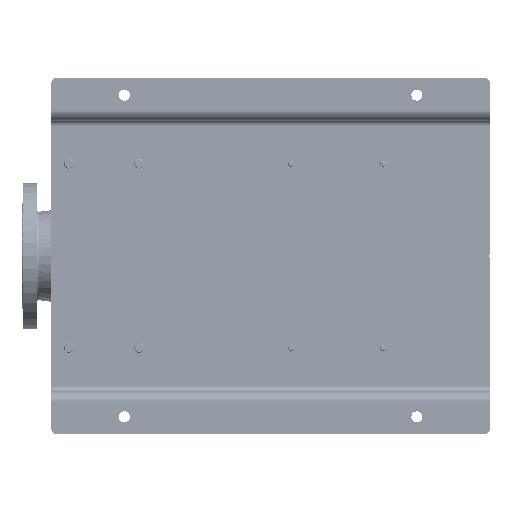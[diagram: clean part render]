
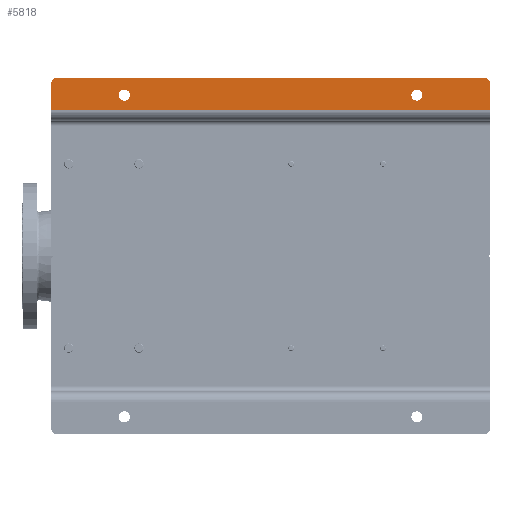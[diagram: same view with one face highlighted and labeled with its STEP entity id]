
A CAD part, front view. The second image highlights one B-rep face of the part: STEP entity #5818.
In plain terms, the highlighted planar face has unit normal (0, -1, 0).
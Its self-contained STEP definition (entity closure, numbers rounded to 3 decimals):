
#4368 = VERTEX_POINT ( 'NONE', #129437 ) ;
#5376 = DIRECTION ( 'NONE',  ( 0., 0., -1. ) ) ;
#5818 = ADVANCED_FACE ( 'NONE', ( #183342, #45867, #120512 ), #104774, .T. ) ;
#10594 = AXIS2_PLACEMENT_3D ( 'NONE', #66213, #152688, #5376 ) ;
#12135 = EDGE_LOOP ( 'NONE', ( #133655, #50056, #124265, #80653, #12762, #180889 ) ) ;
#12762 = ORIENTED_EDGE ( 'NONE', *, *, #142828, .T. ) ;
#19316 = DIRECTION ( 'NONE',  ( 0., -1., 0. ) ) ;
#20785 = VECTOR ( 'NONE', #53340, 1000. ) ;
#23165 = CARTESIAN_POINT ( 'NONE',  ( 580., 0., -125. ) ) ;
#23346 = CARTESIAN_POINT ( 'NONE',  ( 610., 0., -740. ) ) ;
#26149 = CARTESIAN_POINT ( 'NONE',  ( 580., 0., -625. ) ) ;
#28603 = CIRCLE ( 'NONE', #75554, 9.5 ) ;
#28999 = DIRECTION ( 'NONE',  ( 0., 1., 0. ) ) ;
#33368 = AXIS2_PLACEMENT_3D ( 'NONE', #26149, #28999, #44702 ) ;
#33991 = EDGE_CURVE ( 'NONE', #60558, #107157, #39043, .T. ) ;
#34870 = EDGE_CURVE ( 'NONE', #125664, #177051, #110772, .T. ) ;
#35127 = EDGE_CURVE ( 'NONE', #121612, #107157, #86720, .T. ) ;
#38851 = DIRECTION ( 'NONE',  ( 0., 1., 0. ) ) ;
#39043 = CIRCLE ( 'NONE', #133071, 10. ) ;
#39167 = EDGE_CURVE ( 'NONE', #121612, #103346, #39884, .T. ) ;
#39884 = LINE ( 'NONE', #73179, #145018 ) ;
#43158 = DIRECTION ( 'NONE',  ( 0., 0., -1. ) ) ;
#43884 = CARTESIAN_POINT ( 'NONE',  ( 570.5, 0., -625. ) ) ;
#44425 = CIRCLE ( 'NONE', #179302, 10. ) ;
#44702 = DIRECTION ( 'NONE',  ( 0., 0., -1. ) ) ;
#45867 = FACE_BOUND ( 'NONE', #116052, .T. ) ;
#50056 = ORIENTED_EDGE ( 'NONE', *, *, #39167, .T. ) ;
#50209 = DIRECTION ( 'NONE',  ( 0., 0., -1. ) ) ;
#53340 = DIRECTION ( 'NONE',  ( 1., 0., 0. ) ) ;
#55734 = ORIENTED_EDGE ( 'NONE', *, *, #138591, .T. ) ;
#60558 = VERTEX_POINT ( 'NONE', #138130 ) ;
#64006 = CARTESIAN_POINT ( 'NONE',  ( 610., 0., -750. ) ) ;
#66213 = CARTESIAN_POINT ( 'NONE',  ( 580., 0., -625. ) ) ;
#67647 = ORIENTED_EDGE ( 'NONE', *, *, #145330, .T. ) ;
#71749 = DIRECTION ( 'NONE',  ( 0., 0., -1. ) ) ;
#72950 = DIRECTION ( 'NONE',  ( 1., 0., 0. ) ) ;
#73179 = CARTESIAN_POINT ( 'NONE',  ( 555., 0., -750. ) ) ;
#75554 = AXIS2_PLACEMENT_3D ( 'NONE', #116899, #147362, #71749 ) ;
#78708 = LINE ( 'NONE', #64006, #85944 ) ;
#79681 = DIRECTION ( 'NONE',  ( 0., -1., 0. ) ) ;
#80653 = ORIENTED_EDGE ( 'NONE', *, *, #149385, .T. ) ;
#81468 = EDGE_LOOP ( 'NONE', ( #100587, #55734 ) ) ;
#85944 = VECTOR ( 'NONE', #92460, 1000. ) ;
#86590 = CARTESIAN_POINT ( 'NONE',  ( 600., 0., -750. ) ) ;
#86720 = LINE ( 'NONE', #130961, #95351 ) ;
#87903 = VERTEX_POINT ( 'NONE', #23346 ) ;
#92460 = DIRECTION ( 'NONE',  ( 0., 0., 1. ) ) ;
#93931 = CARTESIAN_POINT ( 'NONE',  ( 537., 0., -750. ) ) ;
#95351 = VECTOR ( 'NONE', #72950, 1000. ) ;
#96914 = CARTESIAN_POINT ( 'NONE',  ( 589.5, 0., -625. ) ) ;
#98739 = DIRECTION ( 'NONE',  ( 0., 0., -1. ) ) ;
#99460 = CARTESIAN_POINT ( 'NONE',  ( 537., 0., -750. ) ) ;
#99760 = DIRECTION ( 'NONE',  ( 0., 0., -1. ) ) ;
#100587 = ORIENTED_EDGE ( 'NONE', *, *, #148521, .T. ) ;
#103346 = VERTEX_POINT ( 'NONE', #108299 ) ;
#104774 = PLANE ( 'NONE',  #193777 ) ;
#107157 = VERTEX_POINT ( 'NONE', #186992 ) ;
#108299 = CARTESIAN_POINT ( 'NONE',  ( 555., 0., -750. ) ) ;
#110772 = CIRCLE ( 'NONE', #10594, 9.5 ) ;
#111069 = CARTESIAN_POINT ( 'NONE',  ( 600., 0., -740. ) ) ;
#116052 = EDGE_LOOP ( 'NONE', ( #144040, #67647 ) ) ;
#116899 = CARTESIAN_POINT ( 'NONE',  ( 580., 0., -125. ) ) ;
#120512 = FACE_OUTER_BOUND ( 'NONE', #12135, .T. ) ;
#121612 = VERTEX_POINT ( 'NONE', #132224 ) ;
#124265 = ORIENTED_EDGE ( 'NONE', *, *, #145476, .T. ) ;
#125664 = VERTEX_POINT ( 'NONE', #43884 ) ;
#129437 = CARTESIAN_POINT ( 'NONE',  ( 570.5, 0., -125. ) ) ;
#130961 = CARTESIAN_POINT ( 'NONE',  ( 537., 0., 0. ) ) ;
#132224 = CARTESIAN_POINT ( 'NONE',  ( 555., 0., 0. ) ) ;
#133071 = AXIS2_PLACEMENT_3D ( 'NONE', #151111, #177729, #43158 ) ;
#133655 = ORIENTED_EDGE ( 'NONE', *, *, #35127, .F. ) ;
#138130 = CARTESIAN_POINT ( 'NONE',  ( 610., 0., -10. ) ) ;
#138137 = DIRECTION ( 'NONE',  ( 0., 0., -1. ) ) ;
#138591 = EDGE_CURVE ( 'NONE', #187256, #4368, #28603, .T. ) ;
#142828 = EDGE_CURVE ( 'NONE', #87903, #60558, #78708, .T. ) ;
#144040 = ORIENTED_EDGE ( 'NONE', *, *, #34870, .T. ) ;
#145018 = VECTOR ( 'NONE', #99760, 1000. ) ;
#145330 = EDGE_CURVE ( 'NONE', #177051, #125664, #152536, .T. ) ;
#145476 = EDGE_CURVE ( 'NONE', #103346, #162086, #174154, .T. ) ;
#147362 = DIRECTION ( 'NONE',  ( 0., 1., 0. ) ) ;
#148521 = EDGE_CURVE ( 'NONE', #4368, #187256, #188586, .T. ) ;
#149385 = EDGE_CURVE ( 'NONE', #162086, #87903, #44425, .T. ) ;
#151111 = CARTESIAN_POINT ( 'NONE',  ( 600., 0., -10. ) ) ;
#152536 = CIRCLE ( 'NONE', #33368, 9.5 ) ;
#152688 = DIRECTION ( 'NONE',  ( 0., 1., 0. ) ) ;
#162086 = VERTEX_POINT ( 'NONE', #86590 ) ;
#174154 = LINE ( 'NONE', #99460, #20785 ) ;
#177051 = VERTEX_POINT ( 'NONE', #96914 ) ;
#177729 = DIRECTION ( 'NONE',  ( 0., -1., 0. ) ) ;
#179302 = AXIS2_PLACEMENT_3D ( 'NONE', #111069, #79681, #50209 ) ;
#180889 = ORIENTED_EDGE ( 'NONE', *, *, #33991, .T. ) ;
#181332 = CARTESIAN_POINT ( 'NONE',  ( 589.5, 0., -125. ) ) ;
#183342 = FACE_BOUND ( 'NONE', #81468, .T. ) ;
#185505 = AXIS2_PLACEMENT_3D ( 'NONE', #23165, #38851, #98739 ) ;
#186992 = CARTESIAN_POINT ( 'NONE',  ( 600., 0., 0. ) ) ;
#187256 = VERTEX_POINT ( 'NONE', #181332 ) ;
#188586 = CIRCLE ( 'NONE', #185505, 9.5 ) ;
#193777 = AXIS2_PLACEMENT_3D ( 'NONE', #93931, #19316, #138137 ) ;
